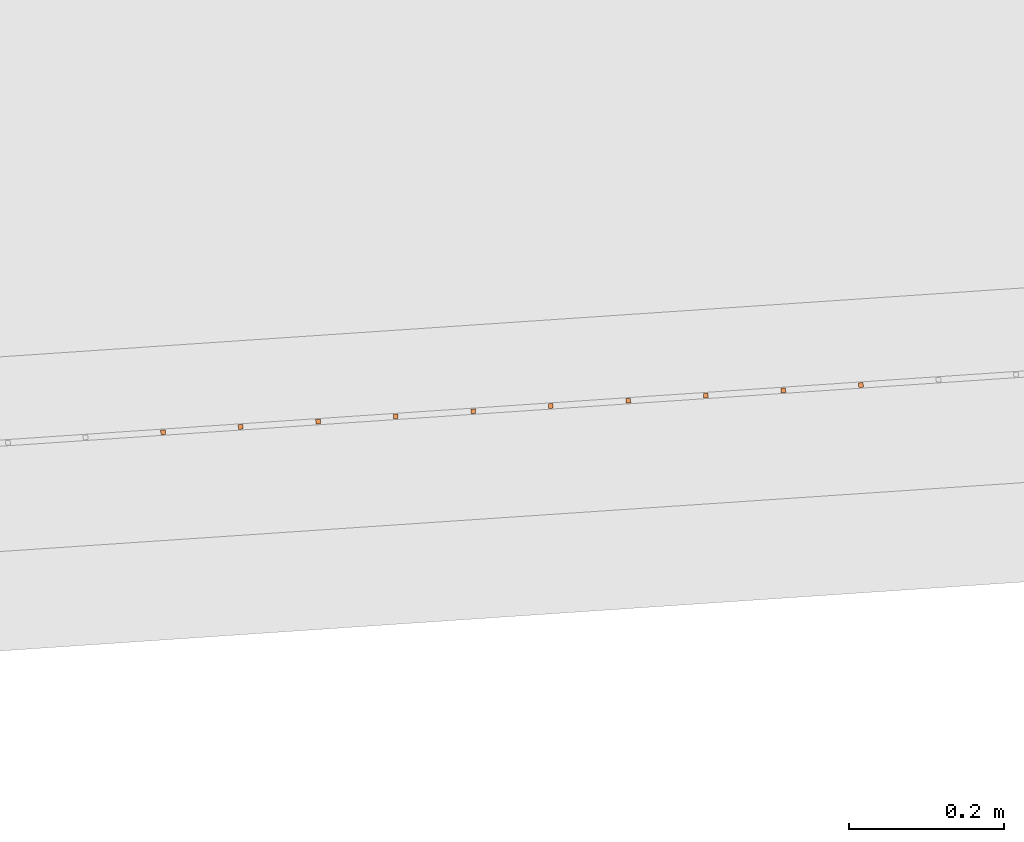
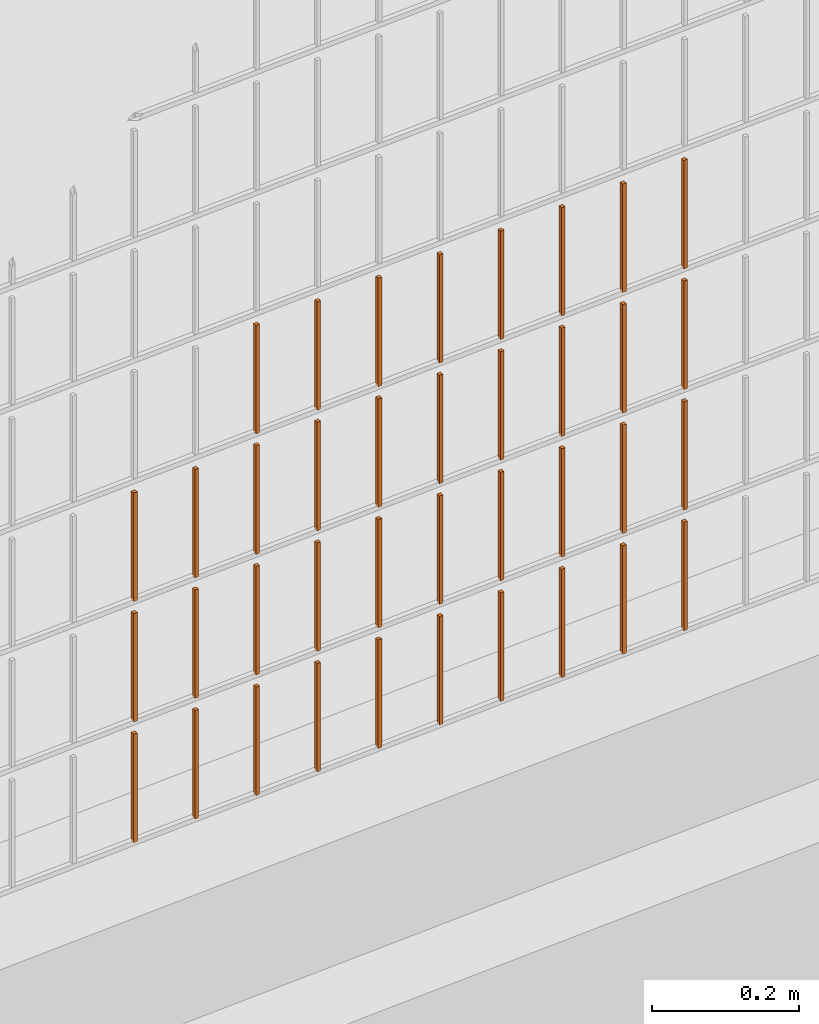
# One storey, part 199 of 1809: 38 proxies, 1 element without a shape of its own.
"""IFC2X3 building model written with IfcOpenShell, lengths in millimetres."""

import ifcopenshell
import ifcopenshell.guid

model = None  # the IFC model being written
_history = None  # IfcOwnerHistory: only IFC2X3 demands one
_inside = {}  # id of a spatial element -> (the spatial element, [elements in it])
_under = {}  # id of a project, library or spatial element -> (it, [spatial elements below it])
_declared = {}  # id of a project -> (the project, [libraries it declares])
_typed = {}  # id of a type object -> (the type object, [elements of that type])
_made_of = {}  # id of a material, layer set ... -> (it, [elements and type objects made of it])


def new_model(schema):
    """Start an empty IFC model of exactly this schema.

    Asked for "IFC4X3", IfcOpenShell would pick the latest addendum, in which some entities
    have other attributes; the version numbers below select the first issue.
    IFC2X3 requires an IfcOwnerHistory on every rooted entity: one is made here for all.
    """
    global model, _history
    if schema == "IFC4X3":
        model = ifcopenshell.file(schema_version=(4, 3, 0, 0))
    else:
        model = ifcopenshell.file(schema=schema)
    _inside.clear()
    _under.clear()
    _declared.clear()
    _typed.clear()
    _made_of.clear()
    _history = None
    if model.schema == "IFC2X3":
        org = make("IfcOrganization", Name="unknown")
        user = make(
            "IfcPersonAndOrganization",
            ThePerson=make("IfcPerson", FamilyName="unknown"),
            TheOrganization=org,
        )
        app = make(
            "IfcApplication",
            ApplicationDeveloper=org,
            Version="unknown",
            ApplicationFullName="unknown",
            ApplicationIdentifier="unknown",
        )
        _history = make(
            "IfcOwnerHistory",
            OwningUser=user,
            OwningApplication=app,
            ChangeAction="ADDED",
            CreationDate=0,
        )
    return model


def make(cls, **values):
    """One entity of the class cls with the attributes given. An attribute that is None is left unset."""
    return model.create_entity(
        cls, **{name: value for name, value in values.items() if value is not None}
    )


def entity(cls, *values):
    """Any entity or typed value of the class cls, its attributes in the order of the schema. None: left unset."""
    e = model.create_entity(cls)
    for i, value in enumerate(values):
        if value is not None:
            e[i] = value
    return e


def rooted(cls, **values):
    """An entity with a GlobalId (a new one), such as an element, a storey or a relation."""
    return make(cls, GlobalId=ifcopenshell.guid.new(), OwnerHistory=_history, **values)


def si_unit(unit_type, name, prefix=None):
    """IfcSIUnit, for example si_unit("LENGTHUNIT", "METRE", prefix="MILLI")."""
    return make("IfcSIUnit", UnitType=unit_type, Prefix=prefix, Name=name)


def converted_unit(unit_type, name, factor, base, dimensions=None, offset=None):
    """IfcConversionBasedUnit, such as the inch: factor (a typed value) times the base unit."""
    return make(
        "IfcConversionBasedUnit"
        if offset is None
        else "IfcConversionBasedUnitWithOffset",
        ConversionOffset=offset,
        Dimensions=None
        if dimensions is None
        else entity("IfcDimensionalExponents", *dimensions),
        UnitType=unit_type,
        Name=name,
        ConversionFactor=make(
            "IfcMeasureWithUnit", ValueComponent=factor, UnitComponent=base
        ),
    )


def derived_unit(unit_type, elements):
    """IfcDerivedUnit: a product of units, each with its exponent."""
    return make(
        "IfcDerivedUnit",
        Elements=[
            make("IfcDerivedUnitElement", Unit=unit, Exponent=power)
            for unit, power in elements
        ],
        UnitType=unit_type,
    )


def money_unit(currency):
    """IfcMonetaryUnit."""
    return make("IfcMonetaryUnit", Currency=currency)


def assignment(units):
    """IfcUnitAssignment: the units of a project."""
    return None if units is None else make("IfcUnitAssignment", Units=units)


def point(xyz):
    """IfcCartesianPoint."""
    return None if xyz is None else make("IfcCartesianPoint", Coordinates=xyz)


def direction(xyz):
    """IfcDirection."""
    return None if xyz is None else make("IfcDirection", DirectionRatios=xyz)


def frame(location, z_axis=None, x_axis=None):
    """IfcAxis2Placement3D, a coordinate frame: its origin and axes. An axis left out is left unset."""
    return make(
        "IfcAxis2Placement3D",
        Location=point(location),
        Axis=direction(z_axis),
        RefDirection=direction(x_axis),
    )


def origin_with_axes():
    """The frame at (0, 0, 0) with the z axis (0, 0, 1) and the x axis (1, 0, 0) written out."""
    return frame((0.0, 0.0, 0.0), z_axis=(0.0, 0.0, 1.0), x_axis=(1.0, 0.0, 0.0))


def place(relative_to, where):
    """IfcLocalPlacement: puts the frame where relative to a parent placement (None: the world)."""
    return make(
        "IfcLocalPlacement", PlacementRelTo=relative_to, RelativePlacement=where
    )


def context(
    kind, dimensions, precision=None, world=None, true_north=None, identifier=None
):
    """IfcGeometricRepresentationContext, for example the 3D "Model" context."""
    return make(
        "IfcGeometricRepresentationContext",
        ContextIdentifier=identifier,
        ContextType=kind,
        CoordinateSpaceDimension=dimensions,
        Precision=precision,
        WorldCoordinateSystem=world,
        TrueNorth=true_north,
    )


def subcontext(parent, identifier, kind, view, scale=None):
    """IfcGeometricRepresentationSubContext, for example "Body" below "Model"."""
    return make(
        "IfcGeometricRepresentationSubContext",
        ContextIdentifier=identifier,
        ContextType=kind,
        ParentContext=parent,
        TargetScale=scale,
        TargetView=view,
    )


def project(units=None, contexts=None):
    """IfcProject with its units and contexts."""
    return rooted(
        "IfcProject",
        Name="project",
        RepresentationContexts=contexts,
        UnitsInContext=assignment(units),
    )


def spatial(cls, under=None, at=None, **own):
    """A site, building, storey or space (cls), placed at a placement, below another one or the project."""
    s = rooted(cls, ObjectPlacement=at, **own)
    if under is not None:
        _under.setdefault(under.id(), (under, []))[1].append(s)
    return s


def faces_of(points, faces, orient=None, outer=None):
    """IfcFace entities. A face is a list of loops; a loop is a list of indices into points, from 0.

    orient and outer hold one flag for each loop. By default every Orientation is true, the
    first loop of a face is its IfcFaceOuterBound and the others are IfcFaceBound.
    """
    made = []
    for i, loops in enumerate(faces):
        bounds = []
        for j, loop in enumerate(loops):
            is_outer = j == 0 if outer is None else outer[i][j]
            bounds.append(
                make(
                    "IfcFaceOuterBound" if is_outer else "IfcFaceBound",
                    Bound=make("IfcPolyLoop", Polygon=[points[k] for k in loop]),
                    Orientation=True if orient is None else orient[i][j],
                )
            )
        made.append(make("IfcFace", Bounds=bounds))
    return made


def faceted_brep(points, faces, orient=None, outer=None, voids=None):
    """IfcFacetedBrep: a solid bounded by flat faces; with voids (closed shells), ...WithVoids."""
    shared = [point(p) for p in points]
    hull = make("IfcClosedShell", CfsFaces=faces_of(shared, faces, orient, outer))
    if voids is None:
        return make("IfcFacetedBrep", Outer=hull)
    return make(
        "IfcFacetedBrepWithVoids",
        Outer=hull,
        Voids=[
            make(cls, CfsFaces=faces_of(shared, fs, o, b)) for cls, fs, o, b in voids
        ],
    )


def shape(context_of_items, identifier, shape_type, items):
    """IfcShapeRepresentation: the items that make up one representation, for example the "Body"."""
    return make(
        "IfcShapeRepresentation",
        ContextOfItems=context_of_items,
        RepresentationIdentifier=identifier,
        RepresentationType=shape_type,
        Items=items,
    )


def source(mapping_origin, context_of_items, identifier, shape_type, items):
    """IfcRepresentationMap: a shape defined once, which mapped items show again and again."""
    return make(
        "IfcRepresentationMap",
        MappingOrigin=mapping_origin,
        MappedRepresentation=shape(context_of_items, identifier, shape_type, items),
    )


def transform(
    local_origin,
    x_axis=None,
    y_axis=None,
    z_axis=None,
    scale=None,
    scale2=None,
    scale3=None,
    uniform=True,
):
    """IfcCartesianTransformationOperator3D, or its non-uniform kind. x_axis, y_axis, z_axis: its Axis1, 2, 3."""
    if uniform:
        return make(
            "IfcCartesianTransformationOperator3D",
            Axis1=direction(x_axis),
            Axis2=direction(y_axis),
            LocalOrigin=point(local_origin),
            Scale=scale,
            Axis3=direction(z_axis),
        )
    return make(
        "IfcCartesianTransformationOperator3DnonUniform",
        Axis1=direction(x_axis),
        Axis2=direction(y_axis),
        LocalOrigin=point(local_origin),
        Scale=scale,
        Axis3=direction(z_axis),
        Scale2=scale2,
        Scale3=scale3,
    )


def mapped(mapping_source, mapping_target):
    """IfcMappedItem: shows the shape of a source again, moved by a transform."""
    return make(
        "IfcMappedItem", MappingSource=mapping_source, MappingTarget=mapping_target
    )


def material(Name=None, Category=None):
    """IfcMaterial."""
    return make("IfcMaterial", Name=Name, Category=Category)


def made_of(thing, what):
    """Note that an element or type object is made of a material, layer set ...; save() writes the relation."""
    if what is not None:
        _made_of.setdefault(what.id(), (what, []))[1].append(thing)
    return thing


def type_object(cls, material=None, **own):
    """A type object (cls), such as IfcWallType, which elements share."""
    return made_of(rooted(cls, **own), material)


def element(
    cls,
    number,
    at=None,
    inside=None,
    cuts=None,
    type_object=None,
    material=None,
    context=None,
    identifier="Body",
    shape_type=None,
    held_by="IfcProductDefinitionShape",
    body=None,
    shapes=None,
    **own,
):
    """One element of the class cls, such as IfcWall. Its Tag is "e" and its number.

    at: its placement. inside: the storey or other place that contains it. cuts: it is an
    opening in that element (IfcRelVoidsElement). A single representation is given by context,
    identifier, shape_type and body (its items); several are given by shapes. held_by: the class
    of the entity that holds the representations. save() writes the other relations.
    """
    e = rooted(cls, Tag="e%d" % number, ObjectPlacement=at, **own)
    if body is not None:
        shapes = [shape(context, identifier, shape_type, body)]
    if shapes is not None:
        e.Representation = make(held_by, Representations=shapes)
    if inside is not None:
        _inside.setdefault(inside.id(), (inside, []))[1].append(e)
    if cuts is not None:
        rooted(
            "IfcRelVoidsElement", RelatingBuildingElement=cuts, RelatedOpeningElement=e
        )
    if type_object is not None:
        _typed.setdefault(type_object.id(), (type_object, []))[1].append(e)
    return made_of(e, material)


def aggregate(whole, parts):
    """IfcRelAggregates: a whole, such as a stair, and the parts it consists of."""
    return rooted("IfcRelAggregates", RelatingObject=whole, RelatedObjects=parts)


def save(model, path):
    """Write the relations noted so far, then the file.

    IfcRelAggregates (storeys below a building ...), IfcRelContainedInSpatialStructure (elements
    in a storey), IfcRelDefinesByType, IfcRelAssociatesMaterial and IfcRelDeclares: one each for
    every whole, place, type object, material and project.
    """
    for whole, parts in _under.values():
        aggregate(whole, parts)
    for where, things in _inside.values():
        rooted(
            "IfcRelContainedInSpatialStructure",
            RelatedElements=things,
            RelatingStructure=where,
        )
    for kind, things in _typed.values():
        rooted("IfcRelDefinesByType", RelatedObjects=things, RelatingType=kind)
    for what, things in _made_of.values():
        rooted("IfcRelAssociatesMaterial", RelatedObjects=things, RelatingMaterial=what)
    for by, libraries in _declared.values():
        rooted("IfcRelDeclares", RelatingContext=by, RelatedDefinitions=libraries)
    model.write(path)


model = new_model("IFC2X3")

# Units and contexts
model_context = context("Model", 3, precision=0.01, world=origin_with_axes(), true_north=direction((0.0, 1.0)))
body_context = subcontext(model_context, "Body", "Model", "MODEL_VIEW")
ifc_project = project(units=[si_unit("LENGTHUNIT", "METRE", prefix="MILLI"), si_unit("AREAUNIT", "SQUARE_METRE"), si_unit("VOLUMEUNIT", "CUBIC_METRE"), converted_unit("PLANEANGLEUNIT", "DEGREE", entity("IfcPlaneAngleMeasure", 0.0174532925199), si_unit("PLANEANGLEUNIT", "RADIAN"), dimensions=[0, 0, 0, 0, 0, 0, 0]), si_unit("SOLIDANGLEUNIT", "STERADIAN"), money_unit("EUR"), converted_unit("TIMEUNIT", "Year", entity("IfcTimeMeasure", 31556926.0), si_unit("TIMEUNIT", "SECOND"), dimensions=[0, 0, 1, 0, 0, 0, 0]), si_unit("MASSUNIT", "GRAM", prefix="KILO"), si_unit("THERMODYNAMICTEMPERATUREUNIT", "DEGREE_CELSIUS"), si_unit("LUMINOUSINTENSITYUNIT", "LUMEN"), si_unit("ENERGYUNIT", "JOULE", prefix="MEGA"), derived_unit("THERMALCONDUCTANCEUNIT", [(si_unit("POWERUNIT", "WATT"), 1), (si_unit("LENGTHUNIT", "METRE"), -1), (si_unit("THERMODYNAMICTEMPERATUREUNIT", "KELVIN"), -1)]), derived_unit("SPECIFICHEATCAPACITYUNIT", [(si_unit("ENERGYUNIT", "JOULE"), 1), (si_unit("MASSUNIT", "GRAM", prefix="KILO"), -1), (si_unit("THERMODYNAMICTEMPERATUREUNIT", "KELVIN"), -1)]), derived_unit("MASSDENSITYUNIT", [(si_unit("MASSUNIT", "GRAM", prefix="KILO"), 1), (si_unit("VOLUMEUNIT", "CUBIC_METRE"), -1)])], contexts=[model_context])

# Site, building, storey
site_placement = place(None, origin_with_axes())
site = spatial("IfcSite", under=ifc_project, at=site_placement, Name="Politse- ja Piirivalveameti ning Päästeameti ühishoone", CompositionType="ELEMENT")
building_placement = place(site_placement, origin_with_axes())
building = spatial("IfcBuilding", under=site, at=building_placement, Name="Politse- ja Piirivalveameti ning Päästeameti ühishoone", CompositionType="ELEMENT")
storey_placement = place(building_placement, origin_with_axes())
storey = spatial("IfcBuildingStorey", under=building, at=storey_placement, Name="Esimene korrus", CompositionType="ELEMENT", Elevation=0.0)

# Proxies
building_element_proxy_type_1 = type_object("IfcBuildingElementProxyType", Name="Railing Type", PredefinedType="NOTDEFINED")
proxy_1_placement = place(storey_placement, frame((89252.001212, -29183.4766571, 203.661247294), z_axis=(0.0, 0.0, 1.0), x_axis=(1.0, 0.0, 0.0)))
proxy_1 = element("IfcBuildingElementProxy", 1, at=proxy_1_placement, inside=storey, type_object=building_element_proxy_type_1, Name="PIIRDEAED")
ifc_material = material(Name="ET-03_Raud")
building_element_proxy_type_2 = type_object("IfcBuildingElementProxyType", Name="IfcBuildingElementProxy", PredefinedType="NOTDEFINED")
shared_shape_1 = source(origin_with_axes(), body_context, "Body", "Brep", [
    faceted_brep([(3.0, 3.0, -0.000752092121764), (-3.0, 3.0, -0.000752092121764), (-3.0, 3.0, 179.99926046), (3.0, 3.0, 179.99926046), (3.0, -3.0, 0.000752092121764), (-3.0, -3.0, 0.000752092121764), (-3.0, -3.0, 180.000764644), (3.0, -3.0, 180.000764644)], [[[0, 1, 2, 3]], [[0, 4, 5, 1]], [[1, 5, 6, 2]], [[3, 2, 6, 7]], [[4, 0, 3, 7]], [[5, 4, 7, 6]]]),
])
proxy_2_placement = place(proxy_1_placement, frame((-65677.0329845, -21734.0104835, 10.7318077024), z_axis=(0.0, 0.0, 1.0), x_axis=(1.0, 0.0, 0.0)))
proxy_2 = element("IfcBuildingElementProxy", 2, at=proxy_2_placement, type_object=building_element_proxy_type_2, material=ifc_material, Name="BALUSTER - 001", context=body_context, shape_type="MappedRepresentation", body=[
    mapped(shared_shape_1, transform((0.0, 0.0, 0.0), x_axis=(-0.0673926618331, 0.997726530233, 0.0), y_axis=(-0.997726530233, -0.0673926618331, 0.0), z_axis=(0.0, 0.0, 1.0))),
])
shared_shape_2 = source(origin_with_axes(), body_context, "Body", "Brep", [
    faceted_brep([(3.0, 3.0, -0.000752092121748), (-3.0, 3.0, -0.00075209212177), (-3.0, 3.0, 179.99926046), (3.0, 3.0, 179.99926046), (3.0, -3.0, 0.00075209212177), (-3.0, -3.0, 0.000752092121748), (-3.0, -3.0, 180.000764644), (3.0, -3.0, 180.000764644)], [[[0, 1, 2, 3]], [[0, 4, 5, 1]], [[1, 5, 6, 2]], [[3, 2, 6, 7]], [[4, 0, 3, 7]], [[5, 4, 7, 6]]]),
])
proxy_3_placement = place(proxy_1_placement, frame((-65577.2603315, -21727.2712173, 10.7568774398), z_axis=(0.0, 0.0, 1.0), x_axis=(1.0, 0.0, 0.0)))
proxy_3 = element("IfcBuildingElementProxy", 3, at=proxy_3_placement, type_object=building_element_proxy_type_2, material=ifc_material, Name="BALUSTER - 001", context=body_context, shape_type="MappedRepresentation", body=[
    mapped(shared_shape_2, transform((0.0, 0.0, 0.0), x_axis=(-0.0673926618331, 0.997726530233, 0.0), y_axis=(-0.997726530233, -0.0673926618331, 0.0), z_axis=(0.0, 0.0, 1.0))),
])
shared_shape_3 = source(origin_with_axes(), body_context, "Body", "Brep", [
    faceted_brep([(3.0, 3.0, -0.000752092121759), (-3.0, 3.0, -0.000752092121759), (-3.0, 3.0, 179.99926046), (3.0, 3.0, 179.99926046), (3.0, -3.0, 0.000752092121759), (-3.0, -3.0, 0.000752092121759), (-3.0, -3.0, 180.000764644), (3.0, -3.0, 180.000764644)], [[[0, 1, 2, 3]], [[0, 4, 5, 1]], [[1, 5, 6, 2]], [[3, 2, 6, 7]], [[4, 0, 3, 7]], [[5, 4, 7, 6]]]),
])
proxy_4_placement = place(proxy_1_placement, frame((-65377.7150255, -21713.792685, 10.8070169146), z_axis=(0.0, 0.0, 1.0), x_axis=(1.0, 0.0, 0.0)))
proxy_4 = element("IfcBuildingElementProxy", 4, at=proxy_4_placement, type_object=building_element_proxy_type_2, material=ifc_material, Name="BALUSTER - 001", context=body_context, shape_type="MappedRepresentation", body=[
    mapped(shared_shape_3, transform((0.0, 0.0, 0.0), x_axis=(-0.0673926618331, 0.997726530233, 0.0), y_axis=(-0.997726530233, -0.0673926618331, 0.0), z_axis=(0.0, 0.0, 1.0))),
])
proxy_5_placement = place(proxy_1_placement, frame((-65976.3509436, -21754.2282821, 10.6565984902), z_axis=(0.0, 0.0, 1.0), x_axis=(1.0, 0.0, 0.0)))
proxy_5 = element("IfcBuildingElementProxy", 5, at=proxy_5_placement, type_object=building_element_proxy_type_2, material=ifc_material, Name="BALUSTER - 001", context=body_context, shape_type="MappedRepresentation", body=[
    mapped(shared_shape_3, transform((0.0, 0.0, 0.0), x_axis=(-0.0673926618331, 0.997726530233, 0.0), y_axis=(-0.997726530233, -0.0673926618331, 0.0), z_axis=(0.0, 0.0, 1.0))),
])
proxy_6_placement = place(proxy_1_placement, frame((-65377.7150255, -21713.792685, 210.807016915), z_axis=(0.0, 0.0, 1.0), x_axis=(1.0, 0.0, 0.0)))
proxy_6 = element("IfcBuildingElementProxy", 6, at=proxy_6_placement, type_object=building_element_proxy_type_2, material=ifc_material, Name="BALUSTER - 001", context=body_context, shape_type="MappedRepresentation", body=[
    mapped(shared_shape_3, transform((0.0, 0.0, 0.0), x_axis=(-0.0673926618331, 0.997726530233, 0.0), y_axis=(-0.997726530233, -0.0673926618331, 0.0), z_axis=(0.0, 0.0, 1.0))),
])
proxy_7_placement = place(proxy_1_placement, frame((-65976.3509436, -21754.2282821, 210.65659849), z_axis=(0.0, 0.0, 1.0), x_axis=(1.0, 0.0, 0.0)))
proxy_7 = element("IfcBuildingElementProxy", 7, at=proxy_7_placement, type_object=building_element_proxy_type_2, material=ifc_material, Name="BALUSTER - 001", context=body_context, shape_type="MappedRepresentation", body=[
    mapped(shared_shape_3, transform((0.0, 0.0, 0.0), x_axis=(-0.0673926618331, 0.997726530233, 0.0), y_axis=(-0.997726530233, -0.0673926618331, 0.0), z_axis=(0.0, 0.0, 1.0))),
])
shared_shape_4 = source(origin_with_axes(), body_context, "Body", "Brep", [
    faceted_brep([(3.0, 3.0, -0.000752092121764), (-3.0, 3.0, -0.000752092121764), (-3.0, 3.0, 179.99926046), (3.0, 3.0, 179.99926046), (3.0, -3.0, 0.000752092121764), (-3.0, -3.0, 0.000752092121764), (-3.0, -3.0, 180.000764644), (3.0, -3.0, 180.000764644)], [[[0, 1, 2, 3]], [[0, 4, 5, 1]], [[1, 5, 6, 2]], [[3, 2, 6, 7]], [[4, 0, 3, 7]], [[5, 4, 7, 6]]]),
])
proxy_8_placement = place(proxy_1_placement, frame((-65677.0329845, -21734.0104835, 210.731807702), z_axis=(0.0, 0.0, 1.0), x_axis=(1.0, 0.0, 0.0)))
proxy_8 = element("IfcBuildingElementProxy", 8, at=proxy_8_placement, type_object=building_element_proxy_type_2, material=ifc_material, Name="BALUSTER - 001", context=body_context, shape_type="MappedRepresentation", body=[
    mapped(shared_shape_4, transform((0.0, 0.0, 0.0), x_axis=(-0.0673926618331, 0.997726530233, 0.0), y_axis=(-0.997726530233, -0.0673926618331, 0.0), z_axis=(0.0, 0.0, 1.0))),
])
proxy_9_placement = place(proxy_1_placement, frame((-65776.8056375, -21740.7497497, 210.706737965), z_axis=(0.0, 0.0, 1.0), x_axis=(1.0, 0.0, 0.0)))
proxy_9 = element("IfcBuildingElementProxy", 9, at=proxy_9_placement, type_object=building_element_proxy_type_2, material=ifc_material, Name="BALUSTER - 001", context=body_context, shape_type="MappedRepresentation", body=[
    mapped(shared_shape_4, transform((0.0, 0.0, 0.0), x_axis=(-0.0673926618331, 0.997726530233, 0.0), y_axis=(-0.997726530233, -0.0673926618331, 0.0), z_axis=(0.0, 0.0, 1.0))),
])
proxy_10_placement = place(proxy_1_placement, frame((-65677.0329845, -21734.0104835, 410.731807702), z_axis=(0.0, 0.0, 1.0), x_axis=(1.0, 0.0, 0.0)))
proxy_10 = element("IfcBuildingElementProxy", 10, at=proxy_10_placement, type_object=building_element_proxy_type_2, material=ifc_material, Name="BALUSTER - 001", context=body_context, shape_type="MappedRepresentation", body=[
    mapped(shared_shape_4, transform((0.0, 0.0, 0.0), x_axis=(-0.0673926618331, 0.997726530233, 0.0), y_axis=(-0.997726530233, -0.0673926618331, 0.0), z_axis=(0.0, 0.0, 1.0))),
])
proxy_11_placement = place(proxy_1_placement, frame((-65677.0329845, -21734.0104835, 610.731807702), z_axis=(0.0, 0.0, 1.0), x_axis=(1.0, 0.0, 0.0)))
proxy_11 = element("IfcBuildingElementProxy", 11, at=proxy_11_placement, type_object=building_element_proxy_type_2, material=ifc_material, Name="BALUSTER - 001", context=body_context, shape_type="MappedRepresentation", body=[
    mapped(shared_shape_4, transform((0.0, 0.0, 0.0), x_axis=(-0.0673926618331, 0.997726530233, 0.0), y_axis=(-0.997726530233, -0.0673926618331, 0.0), z_axis=(0.0, 0.0, 1.0))),
])
proxy_12_placement = place(proxy_1_placement, frame((-65776.8056375, -21740.7497497, 610.706737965), z_axis=(0.0, 0.0, 1.0), x_axis=(1.0, 0.0, 0.0)))
proxy_12 = element("IfcBuildingElementProxy", 12, at=proxy_12_placement, type_object=building_element_proxy_type_2, material=ifc_material, Name="BALUSTER - 001", context=body_context, shape_type="MappedRepresentation", body=[
    mapped(shared_shape_4, transform((0.0, 0.0, 0.0), x_axis=(-0.0673926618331, 0.997726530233, 0.0), y_axis=(-0.997726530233, -0.0673926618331, 0.0), z_axis=(0.0, 0.0, 1.0))),
])
shared_shape_5 = source(origin_with_axes(), body_context, "Body", "Brep", [
    faceted_brep([(3.0, 3.0, -0.000752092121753), (-3.0, 3.0, -0.000752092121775), (-3.0, 3.0, 179.99926046), (3.0, 3.0, 179.99926046), (3.0, -3.0, 0.000752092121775), (-3.0, -3.0, 0.000752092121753), (-3.0, -3.0, 180.000764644), (3.0, -3.0, 180.000764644)], [[[0, 1, 2, 3]], [[0, 4, 5, 1]], [[1, 5, 6, 2]], [[3, 2, 6, 7]], [[4, 0, 3, 7]], [[5, 4, 7, 6]]]),
])
proxy_13_placement = place(proxy_1_placement, frame((-65178.1697194, -21700.3141526, 210.857156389), z_axis=(0.0, 0.0, 1.0), x_axis=(1.0, 0.0, 0.0)))
proxy_13 = element("IfcBuildingElementProxy", 13, at=proxy_13_placement, type_object=building_element_proxy_type_2, material=ifc_material, Name="BALUSTER - 001", context=body_context, shape_type="MappedRepresentation", body=[
    mapped(shared_shape_5, transform((0.0, 0.0, 0.0), x_axis=(-0.0673926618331, 0.997726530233, 0.0), y_axis=(-0.997726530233, -0.0673926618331, 0.0), z_axis=(0.0, 0.0, 1.0))),
])
proxy_14_placement = place(proxy_1_placement, frame((-65178.1697194, -21700.3141526, 410.857156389), z_axis=(0.0, 0.0, 1.0), x_axis=(1.0, 0.0, 0.0)))
proxy_14 = element("IfcBuildingElementProxy", 14, at=proxy_14_placement, type_object=building_element_proxy_type_2, material=ifc_material, Name="BALUSTER - 001", context=body_context, shape_type="MappedRepresentation", body=[
    mapped(shared_shape_5, transform((0.0, 0.0, 0.0), x_axis=(-0.0673926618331, 0.997726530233, 0.0), y_axis=(-0.997726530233, -0.0673926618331, 0.0), z_axis=(0.0, 0.0, 1.0))),
])
shared_shape_6 = source(origin_with_axes(), body_context, "Body", "Brep", [
    faceted_brep([(3.0, 3.0, -0.000752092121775), (-3.0, 3.0, -0.000752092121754), (-3.0, 3.0, 179.99926046), (3.0, 3.0, 179.99926046), (3.0, -3.0, 0.000752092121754), (-3.0, -3.0, 0.000752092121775), (-3.0, -3.0, 180.000764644), (3.0, -3.0, 180.000764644)], [[[0, 1, 2, 3]], [[0, 4, 5, 1]], [[1, 5, 6, 2]], [[3, 2, 6, 7]], [[4, 0, 3, 7]], [[5, 4, 7, 6]]]),
])
proxy_15_placement = place(proxy_1_placement, frame((-65876.5782906, -21747.4890159, 410.681668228), z_axis=(0.0, 0.0, 1.0), x_axis=(1.0, 0.0, 0.0)))
proxy_15 = element("IfcBuildingElementProxy", 15, at=proxy_15_placement, type_object=building_element_proxy_type_2, material=ifc_material, Name="BALUSTER - 001", context=body_context, shape_type="MappedRepresentation", body=[
    mapped(shared_shape_6, transform((0.0, 0.0, 0.0), x_axis=(-0.0673926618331, 0.997726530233, 0.0), y_axis=(-0.997726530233, -0.0673926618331, 0.0), z_axis=(0.0, 0.0, 1.0))),
])
shared_shape_7 = source(origin_with_axes(), body_context, "Body", "Brep", [
    faceted_brep([(3.0, 3.0, -0.000752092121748), (-3.0, 3.0, -0.00075209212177), (-3.0, 3.0, 179.99926046), (3.0, 3.0, 179.99926046), (3.0, -3.0, 0.00075209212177), (-3.0, -3.0, 0.000752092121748), (-3.0, -3.0, 180.000764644), (3.0, -3.0, 180.000764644)], [[[0, 1, 2, 3]], [[0, 4, 5, 1]], [[1, 5, 6, 2]], [[3, 2, 6, 7]], [[4, 0, 3, 7]], [[5, 4, 7, 6]]]),
])
proxy_16_placement = place(proxy_1_placement, frame((-65477.4876785, -21720.5319512, 410.781947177), z_axis=(0.0, 0.0, 1.0), x_axis=(1.0, 0.0, 0.0)))
proxy_16 = element("IfcBuildingElementProxy", 16, at=proxy_16_placement, type_object=building_element_proxy_type_2, material=ifc_material, Name="BALUSTER - 001", context=body_context, shape_type="MappedRepresentation", body=[
    mapped(shared_shape_7, transform((0.0, 0.0, 0.0), x_axis=(-0.0673926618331, 0.997726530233, 0.0), y_axis=(-0.997726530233, -0.0673926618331, 0.0), z_axis=(0.0, 0.0, 1.0))),
])
proxy_17_placement = place(proxy_1_placement, frame((-65577.2603315, -21727.2712173, 410.75687744), z_axis=(0.0, 0.0, 1.0), x_axis=(1.0, 0.0, 0.0)))
proxy_17 = element("IfcBuildingElementProxy", 17, at=proxy_17_placement, type_object=building_element_proxy_type_2, material=ifc_material, Name="BALUSTER - 001", context=body_context, shape_type="MappedRepresentation", body=[
    mapped(shared_shape_7, transform((0.0, 0.0, 0.0), x_axis=(-0.0673926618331, 0.997726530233, 0.0), y_axis=(-0.997726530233, -0.0673926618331, 0.0), z_axis=(0.0, 0.0, 1.0))),
])
proxy_18_placement = place(proxy_1_placement, frame((-65577.2603315, -21727.2712173, 610.75687744), z_axis=(0.0, 0.0, 1.0), x_axis=(1.0, 0.0, 0.0)))
proxy_18 = element("IfcBuildingElementProxy", 18, at=proxy_18_placement, type_object=building_element_proxy_type_2, material=ifc_material, Name="BALUSTER - 001", context=body_context, shape_type="MappedRepresentation", body=[
    mapped(shared_shape_7, transform((0.0, 0.0, 0.0), x_axis=(-0.0673926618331, 0.997726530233, 0.0), y_axis=(-0.997726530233, -0.0673926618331, 0.0), z_axis=(0.0, 0.0, 1.0))),
])
shared_shape_8 = source(origin_with_axes(), body_context, "Body", "Brep", [
    faceted_brep([(3.0, 3.0, -0.000752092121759), (-3.0, 3.0, -0.000752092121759), (-3.0, 3.0, 179.99926046), (3.0, 3.0, 179.99926046), (3.0, -3.0, 0.000752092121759), (-3.0, -3.0, 0.000752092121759), (-3.0, -3.0, 180.000764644), (3.0, -3.0, 180.000764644)], [[[0, 1, 2, 3]], [[0, 4, 5, 1]], [[1, 5, 6, 2]], [[3, 2, 6, 7]], [[4, 0, 3, 7]], [[5, 4, 7, 6]]]),
])
proxy_19_placement = place(proxy_1_placement, frame((-65976.3509436, -21754.2282821, 410.65659849), z_axis=(0.0, 0.0, 1.0), x_axis=(1.0, 0.0, 0.0)))
proxy_19 = element("IfcBuildingElementProxy", 19, at=proxy_19_placement, type_object=building_element_proxy_type_2, material=ifc_material, Name="BALUSTER - 001", context=body_context, shape_type="MappedRepresentation", body=[
    mapped(shared_shape_8, transform((0.0, 0.0, 0.0), x_axis=(-0.0673926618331, 0.997726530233, 0.0), y_axis=(-0.997726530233, -0.0673926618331, 0.0), z_axis=(0.0, 0.0, 1.0))),
])
shared_shape_9 = source(origin_with_axes(), body_context, "Body", "Brep", [
    faceted_brep([(3.0, 3.0, -0.000752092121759), (-3.0, 3.0, -0.000752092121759), (-3.0, 3.0, 179.99926046), (3.0, 3.0, 179.99926046), (3.0, -3.0, 0.000752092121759), (-3.0, -3.0, 0.000752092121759), (-3.0, -3.0, 180.000764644), (3.0, -3.0, 180.000764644)], [[[0, 1, 2, 3]], [[0, 4, 5, 1]], [[1, 5, 6, 2]], [[3, 2, 6, 7]], [[4, 0, 3, 7]], [[5, 4, 7, 6]]]),
])
proxy_20_placement = place(proxy_1_placement, frame((-65277.9423724, -21707.0534188, 410.832086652), z_axis=(0.0, 0.0, 1.0), x_axis=(1.0, 0.0, 0.0)))
proxy_20 = element("IfcBuildingElementProxy", 20, at=proxy_20_placement, type_object=building_element_proxy_type_2, material=ifc_material, Name="BALUSTER - 001", context=body_context, shape_type="MappedRepresentation", body=[
    mapped(shared_shape_9, transform((0.0, 0.0, 0.0), x_axis=(-0.0673926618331, 0.997726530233, 0.0), y_axis=(-0.997726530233, -0.0673926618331, 0.0), z_axis=(0.0, 0.0, 1.0))),
])
proxy_21_placement = place(proxy_1_placement, frame((-65277.9423724, -21707.0534188, 610.832086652), z_axis=(0.0, 0.0, 1.0), x_axis=(1.0, 0.0, 0.0)))
proxy_21 = element("IfcBuildingElementProxy", 21, at=proxy_21_placement, type_object=building_element_proxy_type_2, material=ifc_material, Name="BALUSTER - 001", context=body_context, shape_type="MappedRepresentation", body=[
    mapped(shared_shape_9, transform((0.0, 0.0, 0.0), x_axis=(-0.0673926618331, 0.997726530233, 0.0), y_axis=(-0.997726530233, -0.0673926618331, 0.0), z_axis=(0.0, 0.0, 1.0))),
])
shared_shape_10 = source(origin_with_axes(), body_context, "Body", "Brep", [
    faceted_brep([(3.0, 3.0, -0.000752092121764), (-3.0, 3.0, -0.000752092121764), (-3.0, 3.0, 179.99926046), (3.0, 3.0, 179.99926046), (3.0, -3.0, 0.000752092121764), (-3.0, -3.0, 0.000752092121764), (-3.0, -3.0, 180.000764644), (3.0, -3.0, 180.000764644)], [[[0, 1, 2, 3]], [[0, 4, 5, 1]], [[1, 5, 6, 2]], [[3, 2, 6, 7]], [[4, 0, 3, 7]], [[5, 4, 7, 6]]]),
])
proxy_22_placement = place(proxy_1_placement, frame((-65776.8056375, -21740.7497497, 410.706737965), z_axis=(0.0, 0.0, 1.0), x_axis=(1.0, 0.0, 0.0)))
proxy_22 = element("IfcBuildingElementProxy", 22, at=proxy_22_placement, type_object=building_element_proxy_type_2, material=ifc_material, Name="BALUSTER - 001", context=body_context, shape_type="MappedRepresentation", body=[
    mapped(shared_shape_10, transform((0.0, 0.0, 0.0), x_axis=(-0.0673926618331, 0.997726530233, 0.0), y_axis=(-0.997726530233, -0.0673926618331, 0.0), z_axis=(0.0, 0.0, 1.0))),
])
shared_shape_11 = source(origin_with_axes(), body_context, "Body", "Brep", [
    faceted_brep([(3.0, 3.0, -0.000752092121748), (-3.0, 3.0, -0.00075209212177), (-3.0, 3.0, 179.99926046), (3.0, 3.0, 179.99926046), (3.0, -3.0, 0.00075209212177), (-3.0, -3.0, 0.000752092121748), (-3.0, -3.0, 180.000764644), (3.0, -3.0, 180.000764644)], [[[0, 1, 2, 3]], [[0, 4, 5, 1]], [[1, 5, 6, 2]], [[3, 2, 6, 7]], [[4, 0, 3, 7]], [[5, 4, 7, 6]]]),
])
proxy_23_placement = place(proxy_1_placement, frame((-65577.2603315, -21727.2712173, 210.75687744), z_axis=(0.0, 0.0, 1.0), x_axis=(1.0, 0.0, 0.0)))
proxy_23 = element("IfcBuildingElementProxy", 23, at=proxy_23_placement, type_object=building_element_proxy_type_2, material=ifc_material, Name="BALUSTER - 001", context=body_context, shape_type="MappedRepresentation", body=[
    mapped(shared_shape_11, transform((0.0, 0.0, 0.0), x_axis=(-0.0673926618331, 0.997726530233, 0.0), y_axis=(-0.997726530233, -0.0673926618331, 0.0), z_axis=(0.0, 0.0, 1.0))),
])
proxy_24_placement = place(proxy_1_placement, frame((-66076.1235966, -21760.9675483, 410.631528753), z_axis=(0.0, 0.0, 1.0), x_axis=(1.0, 0.0, 0.0)))
proxy_24 = element("IfcBuildingElementProxy", 24, at=proxy_24_placement, type_object=building_element_proxy_type_2, material=ifc_material, Name="BALUSTER - 001", context=body_context, shape_type="MappedRepresentation", body=[
    mapped(shared_shape_11, transform((0.0, 0.0, 0.0), x_axis=(-0.0673926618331, 0.997726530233, 0.0), y_axis=(-0.997726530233, -0.0673926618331, 0.0), z_axis=(0.0, 0.0, 1.0))),
])
shared_shape_12 = source(origin_with_axes(), body_context, "Body", "Brep", [
    faceted_brep([(3.0, 3.0, -0.000752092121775), (-3.0, 3.0, -0.000752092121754), (-3.0, 3.0, 179.99926046), (3.0, 3.0, 179.99926046), (3.0, -3.0, 0.000752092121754), (-3.0, -3.0, 0.000752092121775), (-3.0, -3.0, 180.000764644), (3.0, -3.0, 180.000764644)], [[[0, 1, 2, 3]], [[0, 4, 5, 1]], [[1, 5, 6, 2]], [[3, 2, 6, 7]], [[4, 0, 3, 7]], [[5, 4, 7, 6]]]),
])
proxy_25_placement = place(proxy_1_placement, frame((-65876.5782906, -21747.4890159, 610.681668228), z_axis=(0.0, 0.0, 1.0), x_axis=(1.0, 0.0, 0.0)))
proxy_25 = element("IfcBuildingElementProxy", 25, at=proxy_25_placement, type_object=building_element_proxy_type_2, material=ifc_material, Name="BALUSTER - 001", context=body_context, shape_type="MappedRepresentation", body=[
    mapped(shared_shape_12, transform((0.0, 0.0, 0.0), x_axis=(-0.0673926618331, 0.997726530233, 0.0), y_axis=(-0.997726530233, -0.0673926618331, 0.0), z_axis=(0.0, 0.0, 1.0))),
])
shared_shape_13 = source(origin_with_axes(), body_context, "Body", "Brep", [
    faceted_brep([(3.0, 3.0, -0.000752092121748), (-3.0, 3.0, -0.00075209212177), (-3.0, 3.0, 179.99926046), (3.0, 3.0, 179.99926046), (3.0, -3.0, 0.00075209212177), (-3.0, -3.0, 0.000752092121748), (-3.0, -3.0, 180.000764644), (3.0, -3.0, 180.000764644)], [[[0, 1, 2, 3]], [[0, 4, 5, 1]], [[1, 5, 6, 2]], [[3, 2, 6, 7]], [[4, 0, 3, 7]], [[5, 4, 7, 6]]]),
])
proxy_26_placement = place(proxy_1_placement, frame((-65477.4876785, -21720.5319512, 610.781947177), z_axis=(0.0, 0.0, 1.0), x_axis=(1.0, 0.0, 0.0)))
proxy_26 = element("IfcBuildingElementProxy", 26, at=proxy_26_placement, type_object=building_element_proxy_type_2, material=ifc_material, Name="BALUSTER - 001", context=body_context, shape_type="MappedRepresentation", body=[
    mapped(shared_shape_13, transform((0.0, 0.0, 0.0), x_axis=(-0.0673926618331, 0.997726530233, 0.0), y_axis=(-0.997726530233, -0.0673926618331, 0.0), z_axis=(0.0, 0.0, 1.0))),
])
shared_shape_14 = source(origin_with_axes(), body_context, "Body", "Brep", [
    faceted_brep([(3.0, 3.0, -0.000752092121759), (-3.0, 3.0, -0.000752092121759), (-3.0, 3.0, 179.99926046), (3.0, 3.0, 179.99926046), (3.0, -3.0, 0.000752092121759), (-3.0, -3.0, 0.000752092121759), (-3.0, -3.0, 180.000764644), (3.0, -3.0, 180.000764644)], [[[0, 1, 2, 3]], [[0, 4, 5, 1]], [[1, 5, 6, 2]], [[3, 2, 6, 7]], [[4, 0, 3, 7]], [[5, 4, 7, 6]]]),
])
proxy_27_placement = place(proxy_1_placement, frame((-65377.7150255, -21713.792685, 610.807016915), z_axis=(0.0, 0.0, 1.0), x_axis=(1.0, 0.0, 0.0)))
proxy_27 = element("IfcBuildingElementProxy", 27, at=proxy_27_placement, type_object=building_element_proxy_type_2, material=ifc_material, Name="BALUSTER - 001", context=body_context, shape_type="MappedRepresentation", body=[
    mapped(shared_shape_14, transform((0.0, 0.0, 0.0), x_axis=(-0.0673926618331, 0.997726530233, 0.0), y_axis=(-0.997726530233, -0.0673926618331, 0.0), z_axis=(0.0, 0.0, 1.0))),
])
shared_shape_15 = source(origin_with_axes(), body_context, "Body", "Brep", [
    faceted_brep([(3.0, 3.0, -0.000752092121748), (-3.0, 3.0, -0.00075209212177), (-3.0, 3.0, 179.99926046), (3.0, 3.0, 179.99926046), (3.0, -3.0, 0.00075209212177), (-3.0, -3.0, 0.000752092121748), (-3.0, -3.0, 180.000764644), (3.0, -3.0, 180.000764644)], [[[0, 1, 2, 3]], [[0, 4, 5, 1]], [[1, 5, 6, 2]], [[3, 2, 6, 7]], [[4, 0, 3, 7]], [[5, 4, 7, 6]]]),
])
proxy_28_placement = place(proxy_1_placement, frame((-65477.4876785, -21720.5319512, 10.7819471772), z_axis=(0.0, 0.0, 1.0), x_axis=(1.0, 0.0, 0.0)))
proxy_28 = element("IfcBuildingElementProxy", 28, at=proxy_28_placement, type_object=building_element_proxy_type_2, material=ifc_material, Name="BALUSTER - 001", context=body_context, shape_type="MappedRepresentation", body=[
    mapped(shared_shape_15, transform((0.0, 0.0, 0.0), x_axis=(-0.0673926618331, 0.997726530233, 0.0), y_axis=(-0.997726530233, -0.0673926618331, 0.0), z_axis=(0.0, 0.0, 1.0))),
])
proxy_29_placement = place(proxy_1_placement, frame((-66076.1235966, -21760.9675483, 10.6315287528), z_axis=(0.0, 0.0, 1.0), x_axis=(1.0, 0.0, 0.0)))
proxy_29 = element("IfcBuildingElementProxy", 29, at=proxy_29_placement, type_object=building_element_proxy_type_2, material=ifc_material, Name="BALUSTER - 001", context=body_context, shape_type="MappedRepresentation", body=[
    mapped(shared_shape_15, transform((0.0, 0.0, 0.0), x_axis=(-0.0673926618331, 0.997726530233, 0.0), y_axis=(-0.997726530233, -0.0673926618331, 0.0), z_axis=(0.0, 0.0, 1.0))),
])
proxy_30_placement = place(proxy_1_placement, frame((-65477.4876785, -21720.5319512, 210.781947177), z_axis=(0.0, 0.0, 1.0), x_axis=(1.0, 0.0, 0.0)))
proxy_30 = element("IfcBuildingElementProxy", 30, at=proxy_30_placement, type_object=building_element_proxy_type_2, material=ifc_material, Name="BALUSTER - 001", context=body_context, shape_type="MappedRepresentation", body=[
    mapped(shared_shape_15, transform((0.0, 0.0, 0.0), x_axis=(-0.0673926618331, 0.997726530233, 0.0), y_axis=(-0.997726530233, -0.0673926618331, 0.0), z_axis=(0.0, 0.0, 1.0))),
])
proxy_31_placement = place(proxy_1_placement, frame((-66076.1235966, -21760.9675483, 210.631528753), z_axis=(0.0, 0.0, 1.0), x_axis=(1.0, 0.0, 0.0)))
proxy_31 = element("IfcBuildingElementProxy", 31, at=proxy_31_placement, type_object=building_element_proxy_type_2, material=ifc_material, Name="BALUSTER - 001", context=body_context, shape_type="MappedRepresentation", body=[
    mapped(shared_shape_15, transform((0.0, 0.0, 0.0), x_axis=(-0.0673926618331, 0.997726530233, 0.0), y_axis=(-0.997726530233, -0.0673926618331, 0.0), z_axis=(0.0, 0.0, 1.0))),
])
shared_shape_16 = source(origin_with_axes(), body_context, "Body", "Brep", [
    faceted_brep([(3.0, 3.0, -0.000752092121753), (-3.0, 3.0, -0.000752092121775), (-3.0, 3.0, 179.99926046), (3.0, 3.0, 179.99926046), (3.0, -3.0, 0.000752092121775), (-3.0, -3.0, 0.000752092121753), (-3.0, -3.0, 180.000764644), (3.0, -3.0, 180.000764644)], [[[0, 1, 2, 3]], [[0, 4, 5, 1]], [[1, 5, 6, 2]], [[3, 2, 6, 7]], [[4, 0, 3, 7]], [[5, 4, 7, 6]]]),
])
proxy_32_placement = place(proxy_1_placement, frame((-65178.1697194, -21700.3141526, 10.8571563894), z_axis=(0.0, 0.0, 1.0), x_axis=(1.0, 0.0, 0.0)))
proxy_32 = element("IfcBuildingElementProxy", 32, at=proxy_32_placement, type_object=building_element_proxy_type_2, material=ifc_material, Name="BALUSTER - 001", context=body_context, shape_type="MappedRepresentation", body=[
    mapped(shared_shape_16, transform((0.0, 0.0, 0.0), x_axis=(-0.0673926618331, 0.997726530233, 0.0), y_axis=(-0.997726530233, -0.0673926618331, 0.0), z_axis=(0.0, 0.0, 1.0))),
])
shared_shape_17 = source(origin_with_axes(), body_context, "Body", "Brep", [
    faceted_brep([(3.0, 3.0, -0.000752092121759), (-3.0, 3.0, -0.000752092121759), (-3.0, 3.0, 179.99926046), (3.0, 3.0, 179.99926046), (3.0, -3.0, 0.000752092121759), (-3.0, -3.0, 0.000752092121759), (-3.0, -3.0, 180.000764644), (3.0, -3.0, 180.000764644)], [[[0, 1, 2, 3]], [[0, 4, 5, 1]], [[1, 5, 6, 2]], [[3, 2, 6, 7]], [[4, 0, 3, 7]], [[5, 4, 7, 6]]]),
])
proxy_33_placement = place(proxy_1_placement, frame((-65277.9423724, -21707.0534188, 10.832086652), z_axis=(0.0, 0.0, 1.0), x_axis=(1.0, 0.0, 0.0)))
proxy_33 = element("IfcBuildingElementProxy", 33, at=proxy_33_placement, type_object=building_element_proxy_type_2, material=ifc_material, Name="BALUSTER - 001", context=body_context, shape_type="MappedRepresentation", body=[
    mapped(shared_shape_17, transform((0.0, 0.0, 0.0), x_axis=(-0.0673926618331, 0.997726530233, 0.0), y_axis=(-0.997726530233, -0.0673926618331, 0.0), z_axis=(0.0, 0.0, 1.0))),
])
shared_shape_18 = source(origin_with_axes(), body_context, "Body", "Brep", [
    faceted_brep([(3.0, 3.0, -0.000752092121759), (-3.0, 3.0, -0.000752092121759), (-3.0, 3.0, 179.99926046), (3.0, 3.0, 179.99926046), (3.0, -3.0, 0.000752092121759), (-3.0, -3.0, 0.000752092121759), (-3.0, -3.0, 180.000764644), (3.0, -3.0, 180.000764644)], [[[0, 1, 2, 3]], [[0, 4, 5, 1]], [[1, 5, 6, 2]], [[3, 2, 6, 7]], [[4, 0, 3, 7]], [[5, 4, 7, 6]]]),
])
proxy_34_placement = place(proxy_1_placement, frame((-65277.9423724, -21707.0534188, 210.832086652), z_axis=(0.0, 0.0, 1.0), x_axis=(1.0, 0.0, 0.0)))
proxy_34 = element("IfcBuildingElementProxy", 34, at=proxy_34_placement, type_object=building_element_proxy_type_2, material=ifc_material, Name="BALUSTER - 001", context=body_context, shape_type="MappedRepresentation", body=[
    mapped(shared_shape_18, transform((0.0, 0.0, 0.0), x_axis=(-0.0673926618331, 0.997726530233, 0.0), y_axis=(-0.997726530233, -0.0673926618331, 0.0), z_axis=(0.0, 0.0, 1.0))),
])
shared_shape_19 = source(origin_with_axes(), body_context, "Body", "Brep", [
    faceted_brep([(3.0, 3.0, -0.000752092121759), (-3.0, 3.0, -0.000752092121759), (-3.0, 3.0, 179.99926046), (3.0, 3.0, 179.99926046), (3.0, -3.0, 0.000752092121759), (-3.0, -3.0, 0.000752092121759), (-3.0, -3.0, 180.000764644), (3.0, -3.0, 180.000764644)], [[[0, 1, 2, 3]], [[0, 4, 5, 1]], [[1, 5, 6, 2]], [[3, 2, 6, 7]], [[4, 0, 3, 7]], [[5, 4, 7, 6]]]),
])
proxy_35_placement = place(proxy_1_placement, frame((-65377.7150255, -21713.792685, 410.807016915), z_axis=(0.0, 0.0, 1.0), x_axis=(1.0, 0.0, 0.0)))
proxy_35 = element("IfcBuildingElementProxy", 35, at=proxy_35_placement, type_object=building_element_proxy_type_2, material=ifc_material, Name="BALUSTER - 001", context=body_context, shape_type="MappedRepresentation", body=[
    mapped(shared_shape_19, transform((0.0, 0.0, 0.0), x_axis=(-0.0673926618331, 0.997726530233, 0.0), y_axis=(-0.997726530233, -0.0673926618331, 0.0), z_axis=(0.0, 0.0, 1.0))),
])
shared_shape_20 = source(origin_with_axes(), body_context, "Body", "Brep", [
    faceted_brep([(3.0, 3.0, -0.000752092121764), (-3.0, 3.0, -0.000752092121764), (-3.0, 3.0, 179.99926046), (3.0, 3.0, 179.99926046), (3.0, -3.0, 0.000752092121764), (-3.0, -3.0, 0.000752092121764), (-3.0, -3.0, 180.000764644), (3.0, -3.0, 180.000764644)], [[[0, 1, 2, 3]], [[0, 4, 5, 1]], [[1, 5, 6, 2]], [[3, 2, 6, 7]], [[4, 0, 3, 7]], [[5, 4, 7, 6]]]),
])
proxy_36_placement = place(proxy_1_placement, frame((-65776.8056375, -21740.7497497, 10.706737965), z_axis=(0.0, 0.0, 1.0), x_axis=(1.0, 0.0, 0.0)))
proxy_36 = element("IfcBuildingElementProxy", 36, at=proxy_36_placement, type_object=building_element_proxy_type_2, material=ifc_material, Name="BALUSTER - 001", context=body_context, shape_type="MappedRepresentation", body=[
    mapped(shared_shape_20, transform((0.0, 0.0, 0.0), x_axis=(-0.0673926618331, 0.997726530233, 0.0), y_axis=(-0.997726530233, -0.0673926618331, 0.0), z_axis=(0.0, 0.0, 1.0))),
])
shared_shape_21 = source(origin_with_axes(), body_context, "Body", "Brep", [
    faceted_brep([(3.0, 3.0, -0.000752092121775), (-3.0, 3.0, -0.000752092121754), (-3.0, 3.0, 179.99926046), (3.0, 3.0, 179.99926046), (3.0, -3.0, 0.000752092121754), (-3.0, -3.0, 0.000752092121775), (-3.0, -3.0, 180.000764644), (3.0, -3.0, 180.000764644)], [[[0, 1, 2, 3]], [[0, 4, 5, 1]], [[1, 5, 6, 2]], [[3, 2, 6, 7]], [[4, 0, 3, 7]], [[5, 4, 7, 6]]]),
])
proxy_37_placement = place(proxy_1_placement, frame((-65876.5782906, -21747.4890159, 10.6816682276), z_axis=(0.0, 0.0, 1.0), x_axis=(1.0, 0.0, 0.0)))
proxy_37 = element("IfcBuildingElementProxy", 37, at=proxy_37_placement, type_object=building_element_proxy_type_2, material=ifc_material, Name="BALUSTER - 001", context=body_context, shape_type="MappedRepresentation", body=[
    mapped(shared_shape_21, transform((0.0, 0.0, 0.0), x_axis=(-0.0673926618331, 0.997726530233, 0.0), y_axis=(-0.997726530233, -0.0673926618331, 0.0), z_axis=(0.0, 0.0, 1.0))),
])
shared_shape_22 = source(origin_with_axes(), body_context, "Body", "Brep", [
    faceted_brep([(3.0, 3.0, -0.000752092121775), (-3.0, 3.0, -0.000752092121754), (-3.0, 3.0, 179.99926046), (3.0, 3.0, 179.99926046), (3.0, -3.0, 0.000752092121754), (-3.0, -3.0, 0.000752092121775), (-3.0, -3.0, 180.000764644), (3.0, -3.0, 180.000764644)], [[[0, 1, 2, 3]], [[0, 4, 5, 1]], [[1, 5, 6, 2]], [[3, 2, 6, 7]], [[4, 0, 3, 7]], [[5, 4, 7, 6]]]),
])
proxy_38_placement = place(proxy_1_placement, frame((-65876.5782906, -21747.4890159, 210.681668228), z_axis=(0.0, 0.0, 1.0), x_axis=(1.0, 0.0, 0.0)))
proxy_38 = element("IfcBuildingElementProxy", 38, at=proxy_38_placement, type_object=building_element_proxy_type_2, material=ifc_material, Name="BALUSTER - 001", context=body_context, shape_type="MappedRepresentation", body=[
    mapped(shared_shape_22, transform((0.0, 0.0, 0.0), x_axis=(-0.0673926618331, 0.997726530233, 0.0), y_axis=(-0.997726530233, -0.0673926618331, 0.0), z_axis=(0.0, 0.0, 1.0))),
])
shared_shape_23 = source(origin_with_axes(), body_context, "Body", "Brep", [
    faceted_brep([(3.0, 3.0, -0.000752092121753), (-3.0, 3.0, -0.000752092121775), (-3.0, 3.0, 179.99926046), (3.0, 3.0, 179.99926046), (3.0, -3.0, 0.000752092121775), (-3.0, -3.0, 0.000752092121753), (-3.0, -3.0, 180.000764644), (3.0, -3.0, 180.000764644)], [[[0, 1, 2, 3]], [[0, 4, 5, 1]], [[1, 5, 6, 2]], [[3, 2, 6, 7]], [[4, 0, 3, 7]], [[5, 4, 7, 6]]]),
])
proxy_39_placement = place(proxy_1_placement, frame((-65178.1697194, -21700.3141526, 610.857156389), z_axis=(0.0, 0.0, 1.0), x_axis=(1.0, 0.0, 0.0)))
proxy_39 = element("IfcBuildingElementProxy", 39, at=proxy_39_placement, type_object=building_element_proxy_type_2, material=ifc_material, Name="BALUSTER - 001", context=body_context, shape_type="MappedRepresentation", body=[
    mapped(shared_shape_23, transform((0.0, 0.0, 0.0), x_axis=(-0.0673926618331, 0.997726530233, 0.0), y_axis=(-0.997726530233, -0.0673926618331, 0.0), z_axis=(0.0, 0.0, 1.0))),
])
aggregate(proxy_1, [proxy_32, proxy_33, proxy_4, proxy_28, proxy_3, proxy_2, proxy_36, proxy_37, proxy_5, proxy_29, proxy_13, proxy_34, proxy_6, proxy_30, proxy_23, proxy_8, proxy_9, proxy_38, proxy_7, proxy_31, proxy_14, proxy_20, proxy_35, proxy_16, proxy_17, proxy_10, proxy_22, proxy_15, proxy_19, proxy_24, proxy_39, proxy_21, proxy_27, proxy_26, proxy_18, proxy_11, proxy_12, proxy_25])

save(model, "model.ifc")
